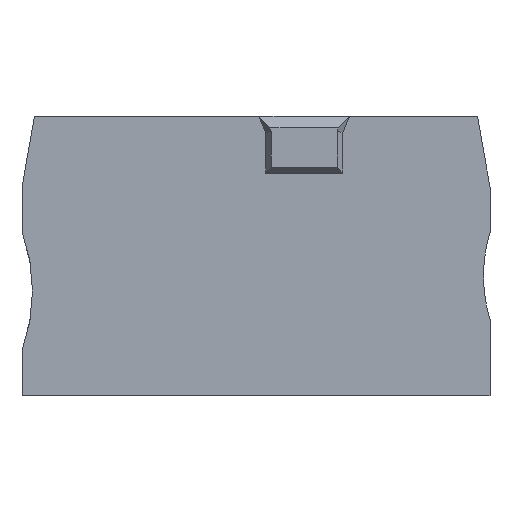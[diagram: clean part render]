
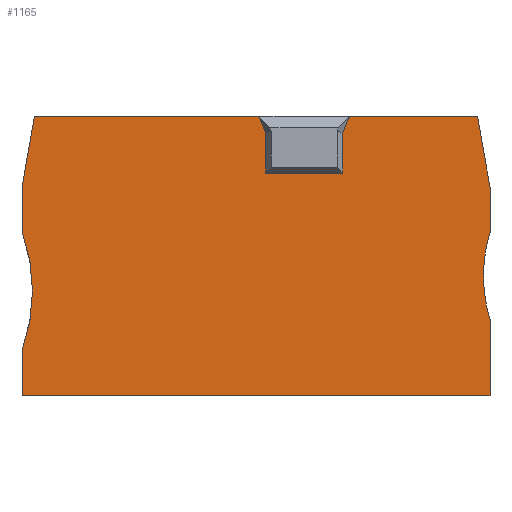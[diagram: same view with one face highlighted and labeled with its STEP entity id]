
A CAD part, left-side view. The second image highlights one B-rep face of the part: STEP entity #1165.
In plain terms, the highlighted planar face has unit normal (-1, 0, 0).
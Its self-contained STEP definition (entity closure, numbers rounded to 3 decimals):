
#306=CARTESIAN_POINT('',(0.,1.3,29.1));
#307=VERTEX_POINT('',#306);
#331=CARTESIAN_POINT('',(0.,47.5,29.1));
#332=VERTEX_POINT('',#331);
#339=CARTESIAN_POINT('',(0.,24.097,29.1));
#340=VERTEX_POINT('',#339);
#341=CARTESIAN_POINT('',(-0.,24.097,29.1));
#342=DIRECTION('',(0.,1.,0.));
#343=VECTOR('',#342,23.403);
#344=LINE('',#341,#343);
#345=EDGE_CURVE('',#340,#332,#344,.T.);
#363=CARTESIAN_POINT('',(0.,14.653,29.1));
#364=VERTEX_POINT('',#363);
#371=CARTESIAN_POINT('',(-0.,1.3,29.1));
#372=DIRECTION('',(0.,1.,0.));
#373=VECTOR('',#372,13.353);
#374=LINE('',#371,#373);
#375=EDGE_CURVE('',#307,#364,#374,.T.);
#505=CARTESIAN_POINT('',(0.,15.35,27.423));
#506=VERTEX_POINT('',#505);
#507=CARTESIAN_POINT('',(0.,15.35,27.423));
#508=DIRECTION('',(-0.,-0.384,0.923));
#509=VECTOR('',#508,1.816);
#510=LINE('',#507,#509);
#511=EDGE_CURVE('',#506,#364,#510,.T.);
#529=CARTESIAN_POINT('',(0.,15.35,23.2));
#530=VERTEX_POINT('',#529);
#531=CARTESIAN_POINT('',(0.,15.35,23.2));
#532=DIRECTION('',(0.,-0.,1.));
#533=VECTOR('',#532,4.223);
#534=LINE('',#531,#533);
#535=EDGE_CURVE('',#530,#506,#534,.T.);
#560=CARTESIAN_POINT('',(0.,23.4,23.2));
#561=VERTEX_POINT('',#560);
#562=CARTESIAN_POINT('',(0.,23.4,23.2));
#563=DIRECTION('',(-0.,-1.,-0.));
#564=VECTOR('',#563,8.05);
#565=LINE('',#562,#564);
#566=EDGE_CURVE('',#561,#530,#565,.T.);
#591=CARTESIAN_POINT('',(0.,23.4,27.423));
#592=VERTEX_POINT('',#591);
#593=CARTESIAN_POINT('',(0.,23.4,27.423));
#594=DIRECTION('',(0.,0.,-1.));
#595=VECTOR('',#594,4.223);
#596=LINE('',#593,#595);
#597=EDGE_CURVE('',#592,#561,#596,.T.);
#620=CARTESIAN_POINT('',(0.,24.097,29.1));
#621=DIRECTION('',(-0.,-0.384,-0.923));
#622=VECTOR('',#621,1.816);
#623=LINE('',#620,#622);
#624=EDGE_CURVE('',#340,#592,#623,.T.);
#638=CARTESIAN_POINT('',(0.,0.,21.727));
#639=VERTEX_POINT('',#638);
#640=CARTESIAN_POINT('',(0.,0.,21.727));
#641=DIRECTION('',(0.,0.174,0.985));
#642=VECTOR('',#641,7.486);
#643=LINE('',#640,#642);
#644=EDGE_CURVE('',#639,#307,#643,.T.);
#661=CARTESIAN_POINT('',(0.,0.,16.993));
#662=VERTEX_POINT('',#661);
#671=CARTESIAN_POINT('',(0.,0.,16.993));
#672=DIRECTION('',(-0.,-0.,1.));
#673=VECTOR('',#672,4.735);
#674=LINE('',#671,#673);
#675=EDGE_CURVE('',#662,#639,#674,.T.);
#685=CARTESIAN_POINT('',(0.,0.,0.));
#686=VERTEX_POINT('',#685);
#694=CARTESIAN_POINT('',(0.,0.,7.956));
#695=VERTEX_POINT('',#694);
#702=CARTESIAN_POINT('',(0.,0.,0.));
#703=DIRECTION('',(-0.,-0.,1.));
#704=VECTOR('',#703,7.956);
#705=LINE('',#702,#704);
#706=EDGE_CURVE('',#686,#695,#705,.T.);
#716=CARTESIAN_POINT('',(0.,0.681,12.475));
#717=VERTEX_POINT('',#716);
#726=CARTESIAN_POINT('',(0.,-14.643,12.475));
#727=DIRECTION('',(1.,-0.,0.));
#728=DIRECTION('',(0.,1.,0.));
#729=AXIS2_PLACEMENT_3D('',#726,#727,#728);
#730=CIRCLE('',#729,15.324);
#731=EDGE_CURVE('',#717,#662,#730,.T.);
#741=CARTESIAN_POINT('',(0.,48.8,0.));
#742=VERTEX_POINT('',#741);
#751=CARTESIAN_POINT('',(0.,48.8,0.));
#752=DIRECTION('',(-0.,-1.,-0.));
#753=VECTOR('',#752,48.8);
#754=LINE('',#751,#753);
#755=EDGE_CURVE('',#742,#686,#754,.T.);
#765=CARTESIAN_POINT('',(0.,48.8,21.727));
#766=VERTEX_POINT('',#765);
#773=CARTESIAN_POINT('',(0.,48.8,17.08));
#774=VERTEX_POINT('',#773);
#781=CARTESIAN_POINT('',(0.,48.8,21.727));
#782=DIRECTION('',(-0.,0.,-1.));
#783=VECTOR('',#782,4.647);
#784=LINE('',#781,#783);
#785=EDGE_CURVE('',#766,#774,#784,.T.);
#795=CARTESIAN_POINT('',(0.,48.8,4.72));
#796=VERTEX_POINT('',#795);
#805=CARTESIAN_POINT('',(0.,48.8,4.72));
#806=DIRECTION('',(-0.,0.,-1.));
#807=VECTOR('',#806,4.72);
#808=LINE('',#805,#807);
#809=EDGE_CURVE('',#796,#742,#808,.T.);
#820=CARTESIAN_POINT('',(0.,65.764,10.9));
#821=DIRECTION('',(1.,-0.,0.));
#822=DIRECTION('',(0.,1.,0.));
#823=AXIS2_PLACEMENT_3D('',#820,#821,#822);
#824=CIRCLE('',#823,18.055);
#825=EDGE_CURVE('',#774,#796,#824,.T.);
#840=CARTESIAN_POINT('',(0.,47.5,29.1));
#841=DIRECTION('',(0.,0.174,-0.985));
#842=VECTOR('',#841,7.486);
#843=LINE('',#840,#842);
#844=EDGE_CURVE('',#332,#766,#843,.T.);
#1135=CARTESIAN_POINT('',(0.,24.4,29.1));
#1136=DIRECTION('',(1.,-0.,0.));
#1137=DIRECTION('',(0.,1.,0.));
#1138=AXIS2_PLACEMENT_3D('',#1135,#1136,#1137);
#1139=PLANE('',#1138);
#1140=ORIENTED_EDGE('',*,*,#345,.T.);
#1141=ORIENTED_EDGE('',*,*,#844,.T.);
#1142=ORIENTED_EDGE('',*,*,#785,.T.);
#1143=ORIENTED_EDGE('',*,*,#825,.T.);
#1144=ORIENTED_EDGE('',*,*,#809,.T.);
#1145=ORIENTED_EDGE('',*,*,#755,.T.);
#1146=ORIENTED_EDGE('',*,*,#706,.T.);
#1147=CARTESIAN_POINT('',(0.,-14.643,12.475));
#1148=DIRECTION('',(1.,-0.,0.));
#1149=DIRECTION('',(0.,1.,0.));
#1150=AXIS2_PLACEMENT_3D('',#1147,#1148,#1149);
#1151=CIRCLE('',#1150,15.324);
#1152=EDGE_CURVE('',#695,#717,#1151,.T.);
#1153=ORIENTED_EDGE('',*,*,#1152,.T.);
#1154=ORIENTED_EDGE('',*,*,#731,.T.);
#1155=ORIENTED_EDGE('',*,*,#675,.T.);
#1156=ORIENTED_EDGE('',*,*,#644,.T.);
#1157=ORIENTED_EDGE('',*,*,#375,.T.);
#1158=ORIENTED_EDGE('',*,*,#511,.F.);
#1159=ORIENTED_EDGE('',*,*,#535,.F.);
#1160=ORIENTED_EDGE('',*,*,#566,.F.);
#1161=ORIENTED_EDGE('',*,*,#597,.F.);
#1162=ORIENTED_EDGE('',*,*,#624,.F.);
#1163=EDGE_LOOP('',(#1140,#1141,#1142,#1143,#1144,#1145,#1146,#1153,#1154,#1155,#1156,#1157,#1158,#1159,#1160,#1161,#1162));
#1164=FACE_BOUND('',#1163,.T.);
#1165=ADVANCED_FACE('',(#1164),#1139,.F.);
